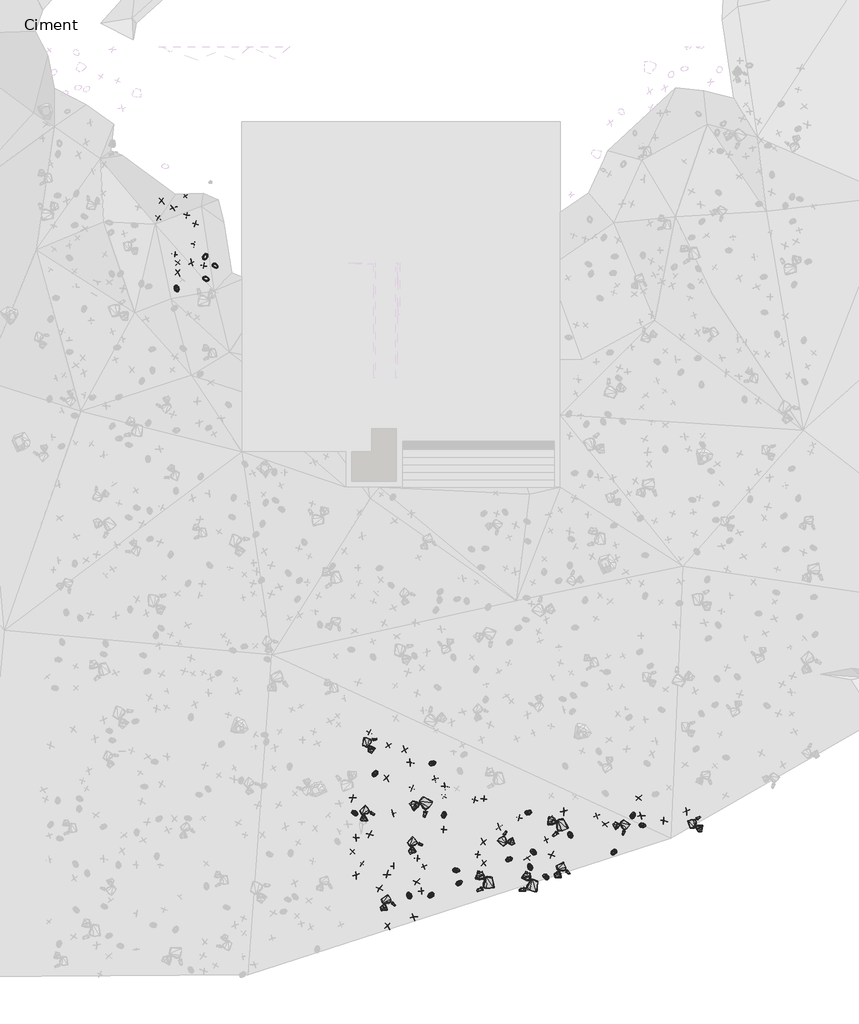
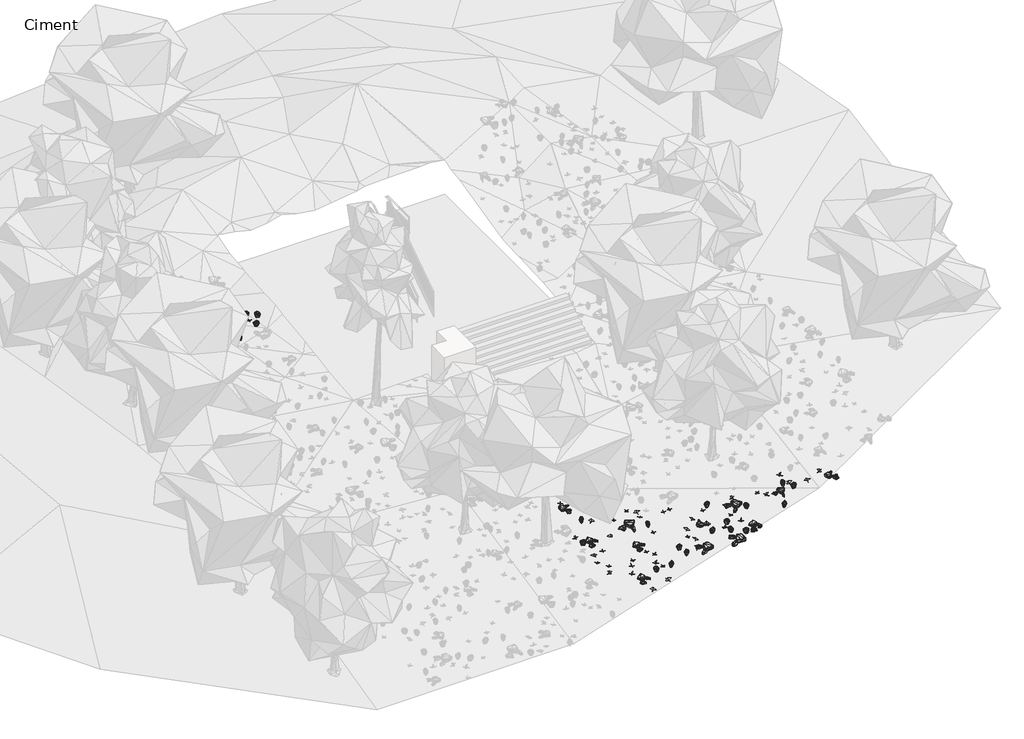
# One storey, part 11 of 30: 88 geographic elements.
"""IFC4 building model written with IfcOpenShell, lengths in millimetres."""

from ifc_helpers import new_model, si_unit, origin, place, context, project, spatial, transform, mapped, element, save
from components import enscape_assetdefinition_bush_025_fern_enscape_5718bf32, enscape_assetdefinition_bush_054_plant_09_version_2_enscape_7b546a12, enscape_assetdefinition_bush_062_plant_09_version_3_enscape_ccf8c8eb, enscape_assetdefinition_stone_013_group_enscape_516da325, enscape_assetdefinition_stone_013_group_enscape_db9b3e91

model = new_model("IFC4")

# Units and contexts
model_context = context("Model", 3, world=origin())
ifc_project = project(units=[si_unit("LENGTHUNIT", "METRE", prefix="MILLI")], contexts=[model_context])

# Site, building, storey
site = spatial("IfcSite", under=ifc_project)
building = spatial("IfcBuilding", under=site)
storey = spatial("IfcBuildingStorey", under=building, Name="Ciment", Elevation=-1500.0)

# Geographic elements
placement = place(None, origin())
enscape_assetdefinition_bush_025_fern_enscape_shape = enscape_assetdefinition_bush_025_fern_enscape_5718bf32(model_context)
element("IfcGeographicElement", 1, ObjectType="Enscape AssetDefinition - Bush 025 Fern : Enscape AssetDefinition - Bush 025 Fern", at=placement, inside=storey, context=model_context, shape_type="MappedRepresentation", body=[
    mapped(enscape_assetdefinition_bush_025_fern_enscape_shape, transform((7118.5898781, -26740.2896881, -2945.7292557), x_axis=(-0.45505584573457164, 0.8904629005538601, 0.0), y_axis=(-0.8904629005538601, -0.45505584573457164, 0.0), z_axis=(0.0, 0.0, 1.0))),
])
element("IfcGeographicElement", 2, ObjectType="Enscape AssetDefinition - Bush 025 Fern : Enscape AssetDefinition - Bush 025 Fern", at=placement, inside=storey, context=model_context, shape_type="MappedRepresentation", body=[
    mapped(enscape_assetdefinition_bush_025_fern_enscape_shape, transform((1025.7167816, -23061.4070892, -2487.1397018), x_axis=(0.4940341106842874, 0.8694425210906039, 0.0), y_axis=(-0.8694425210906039, 0.4940341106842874, 0.0), z_axis=(0.0, 0.0, 1.0))),
])
element("IfcGeographicElement", 3, ObjectType="Enscape AssetDefinition - Bush 025 Fern : Enscape AssetDefinition - Bush 025 Fern", at=placement, inside=storey, context=model_context, shape_type="MappedRepresentation", body=[
    mapped(enscape_assetdefinition_bush_025_fern_enscape_shape, transform((3204.8778534, -27858.0818176, -2933.9733124), x_axis=(-0.6869620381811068, -0.7266933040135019, 0.0), y_axis=(0.7266933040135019, -0.6869620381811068, 0.0), z_axis=(0.0, 0.0, 1.0))),
])
element("IfcGeographicElement", 4, ObjectType="Enscape AssetDefinition - Bush 025 Fern : Enscape AssetDefinition - Bush 025 Fern", at=placement, inside=storey, context=model_context, shape_type="MappedRepresentation", body=[
    mapped(enscape_assetdefinition_bush_025_fern_enscape_shape, transform((2365.2915955, -27864.9272919, -2912.5247002), x_axis=(-0.578847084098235, 0.8154361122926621, 0.0), y_axis=(-0.8154361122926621, -0.578847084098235, 0.0), z_axis=(0.0, 0.0, 1.0))),
])
element("IfcGeographicElement", 5, ObjectType="Enscape AssetDefinition - Bush 025 Fern : Enscape AssetDefinition - Bush 025 Fern", at=placement, inside=storey, context=model_context, shape_type="MappedRepresentation", body=[
    mapped(enscape_assetdefinition_bush_025_fern_enscape_shape, transform((-5666.4047241, -2708.9042664, -517.8720951), x_axis=(0.3528744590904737, 0.9356706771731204, 0.0), y_axis=(-0.9356706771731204, 0.3528744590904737, 0.0), z_axis=(0.0, 0.0, 1.0))),
])
element("IfcGeographicElement", 6, ObjectType="Enscape AssetDefinition - Bush 025 Fern : Enscape AssetDefinition - Bush 025 Fern", at=placement, inside=storey, context=model_context, shape_type="MappedRepresentation", body=[
    mapped(enscape_assetdefinition_bush_025_fern_enscape_shape, transform((4333.7116241, -27377.7866364, -2924.5359898), x_axis=(0.7430670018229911, 0.6692170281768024, 0.0), y_axis=(-0.6692170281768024, 0.7430670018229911, 0.0), z_axis=(0.0, 0.0, 1.0))),
])
element("IfcGeographicElement", 7, ObjectType="Enscape AssetDefinition - Bush 025 Fern : Enscape AssetDefinition - Bush 025 Fern", at=placement, inside=storey, context=model_context, shape_type="MappedRepresentation", body=[
    mapped(enscape_assetdefinition_bush_025_fern_enscape_shape, transform((7736.0091209, -27129.6367645, -2993.544817), x_axis=(-0.8631861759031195, 0.504885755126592, 0.0), y_axis=(-0.504885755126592, -0.8631861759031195, 0.0), z_axis=(0.0, 0.0, 1.0))),
])
element("IfcGeographicElement", 8, ObjectType="Enscape AssetDefinition - Bush 025 Fern : Enscape AssetDefinition - Bush 025 Fern", at=placement, inside=storey, context=model_context, shape_type="MappedRepresentation", body=[
    mapped(enscape_assetdefinition_bush_025_fern_enscape_shape, transform((8704.5841217, -25474.6227264, -2884.4637871), x_axis=(-0.5102727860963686, 0.860012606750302, 0.0), y_axis=(-0.860012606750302, -0.5102727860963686, 0.0), z_axis=(0.0, 0.0, 1.0))),
])
element("IfcGeographicElement", 9, ObjectType="Enscape AssetDefinition - Bush 025 Fern : Enscape AssetDefinition - Bush 025 Fern", at=placement, inside=storey, context=model_context, shape_type="MappedRepresentation", body=[
    mapped(enscape_assetdefinition_bush_025_fern_enscape_shape, transform((11552.0458221, -25111.7534637, -2929.6104908), x_axis=(0.9999991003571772, -0.0013413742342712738, 0.0), y_axis=(0.0013413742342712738, 0.9999991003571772, 0.0), z_axis=(0.0, 0.0, 1.0))),
])
element("IfcGeographicElement", 10, ObjectType="Enscape AssetDefinition - Bush 025 Fern : Enscape AssetDefinition - Bush 025 Fern", at=placement, inside=storey, context=model_context, shape_type="MappedRepresentation", body=[
    mapped(enscape_assetdefinition_bush_025_fern_enscape_shape, transform((7059.1759682, -24603.2371521, -2770.5411911), x_axis=(0.9294596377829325, 0.3689238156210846, 0.0), y_axis=(-0.3689238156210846, 0.9294596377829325, 0.0), z_axis=(0.0, 0.0, 1.0))),
])
element("IfcGeographicElement", 11, ObjectType="Enscape AssetDefinition - Bush 025 Fern : Enscape AssetDefinition - Bush 025 Fern", at=placement, inside=storey, context=model_context, shape_type="MappedRepresentation", body=[
    mapped(enscape_assetdefinition_bush_025_fern_enscape_shape, transform((-6794.6281433, -3959.6617222, -703.9065361), x_axis=(-0.42776056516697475, 0.9038920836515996, 0.0), y_axis=(-0.9038920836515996, -0.42776056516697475, 0.0), z_axis=(0.0, 0.0, 1.0))),
])
element("IfcGeographicElement", 12, ObjectType="Enscape AssetDefinition - Bush 025 Fern : Enscape AssetDefinition - Bush 025 Fern", at=placement, inside=storey, context=model_context, shape_type="MappedRepresentation", body=[
    mapped(enscape_assetdefinition_bush_025_fern_enscape_shape, transform((3733.3393097, -24691.7171478, -2690.5632019), x_axis=(0.12916481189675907, 0.9916231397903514, 0.0), y_axis=(-0.9916231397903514, 0.12916481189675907, 0.0), z_axis=(0.0, 0.0, 1.0))),
])
element("IfcGeographicElement", 13, ObjectType="Enscape AssetDefinition - Bush 025 Fern : Enscape AssetDefinition - Bush 025 Fern", at=placement, inside=storey, context=model_context, shape_type="MappedRepresentation", body=[
    mapped(enscape_assetdefinition_bush_025_fern_enscape_shape, transform((-5277.1778107, -3076.6162872, -450.5460262), x_axis=(0.877741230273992, -0.4791349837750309, 0.0), y_axis=(0.4791349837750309, 0.877741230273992, 0.0), z_axis=(0.0, 0.0, 1.0))),
])
element("IfcGeographicElement", 14, ObjectType="Enscape AssetDefinition - Bush 025 Fern : Enscape AssetDefinition - Bush 025 Fern", at=placement, inside=storey, context=model_context, shape_type="MappedRepresentation", body=[
    mapped(enscape_assetdefinition_bush_025_fern_enscape_shape, transform((3260.2901459, -22660.5396271, -2513.1363869), x_axis=(-0.9152464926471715, -0.4028943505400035, 0.0), y_axis=(0.4028943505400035, -0.9152464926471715, 0.0), z_axis=(0.0, 0.0, 1.0))),
])
element("IfcGeographicElement", 15, ObjectType="Enscape AssetDefinition - Bush 025 Fern : Enscape AssetDefinition - Bush 025 Fern", at=placement, inside=storey, context=model_context, shape_type="MappedRepresentation", body=[
    mapped(enscape_assetdefinition_bush_025_fern_enscape_shape, transform((6280.7941437, -26440.3514862, -2899.40238), x_axis=(-0.8868810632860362, -0.46199781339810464, 0.0), y_axis=(0.46199781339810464, -0.8868810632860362, 0.0), z_axis=(0.0, 0.0, 1.0))),
])
element("IfcGeographicElement", 16, ObjectType="Enscape AssetDefinition - Bush 025 Fern : Enscape AssetDefinition - Bush 025 Fern", at=placement, inside=storey, context=model_context, shape_type="MappedRepresentation", body=[
    mapped(enscape_assetdefinition_bush_025_fern_enscape_shape, transform((11169.8513031, -24714.1284943, -2884.5906258), x_axis=(0.29167000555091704, 0.9565190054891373, 0.0), y_axis=(-0.9565190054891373, 0.29167000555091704, 0.0), z_axis=(0.0, 0.0, 1.0))),
])
element("IfcGeographicElement", 17, ObjectType="Enscape AssetDefinition - Bush 025 Fern : Enscape AssetDefinition - Bush 025 Fern", at=placement, inside=storey, context=model_context, shape_type="MappedRepresentation", body=[
    mapped(enscape_assetdefinition_bush_025_fern_enscape_shape, transform((206.1748505, -24620.7180023, -2592.3509598), x_axis=(-0.9025733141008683, 0.43053619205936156, 0.0), y_axis=(-0.43053619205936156, -0.9025733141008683, 0.0), z_axis=(0.0, 0.0, 1.0))),
])
element("IfcGeographicElement", 18, ObjectType="Enscape AssetDefinition - Bush 025 Fern : Enscape AssetDefinition - Bush 025 Fern", at=placement, inside=storey, context=model_context, shape_type="MappedRepresentation", body=[
    mapped(enscape_assetdefinition_bush_025_fern_enscape_shape, transform((7243.2308197, -26151.9184113, -2901.1921883), x_axis=(-0.8171072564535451, 0.5764856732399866, 0.0), y_axis=(-0.5764856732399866, -0.8171072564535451, 0.0), z_axis=(0.0, 0.0, 1.0))),
])
element("IfcGeographicElement", 19, ObjectType="Enscape AssetDefinition - Bush 025 Fern : Enscape AssetDefinition - Bush 025 Fern", at=placement, inside=storey, context=model_context, shape_type="MappedRepresentation", body=[
    mapped(enscape_assetdefinition_bush_025_fern_enscape_shape, transform((10408.4606171, -26169.4202423, -2985.5716228), x_axis=(-0.636606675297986, -0.7711886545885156, 0.0), y_axis=(0.7711886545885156, -0.636606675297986, 0.0), z_axis=(0.0, 0.0, 1.0))),
])
element("IfcGeographicElement", 20, ObjectType="Enscape AssetDefinition - Bush 025 Fern : Enscape AssetDefinition - Bush 025 Fern", at=placement, inside=storey, context=model_context, shape_type="MappedRepresentation", body=[
    mapped(enscape_assetdefinition_bush_025_fern_enscape_shape, transform((-5656.7459106, -3579.4467926, -533.7667465), x_axis=(-0.9736985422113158, 0.22784018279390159, 0.0), y_axis=(-0.22784018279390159, -0.9736985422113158, 0.0), z_axis=(0.0, 0.0, 1.0))),
])
element("IfcGeographicElement", 21, ObjectType="Enscape AssetDefinition - Bush 025 Fern : Enscape AssetDefinition - Bush 025 Fern", at=placement, inside=storey, context=model_context, shape_type="MappedRepresentation", body=[
    mapped(enscape_assetdefinition_bush_025_fern_enscape_shape, transform((4217.7371979, -26884.8991394, -2881.4501762), x_axis=(0.9989510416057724, 0.04579100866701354, 0.0), y_axis=(-0.04579100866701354, 0.9989510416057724, 0.0), z_axis=(0.0, 0.0, 1.0))),
])
enscape_assetdefinition_bush_054_plant_09_version_2_enscape_shape = enscape_assetdefinition_bush_054_plant_09_version_2_enscape_7b546a12(model_context)
element("IfcGeographicElement", 22, ObjectType="Enscape AssetDefinition - Bush 054 Plant 09, Version 2 : Enscape AssetDefinition - Bush 054 Plant 09, Version 2", at=placement, inside=storey, context=model_context, shape_type="MappedRepresentation", body=[
    mapped(enscape_assetdefinition_bush_054_plant_09_version_2_enscape_shape, transform((7747.625351, -25687.6564026, -2876.6918182), x_axis=(0.904695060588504, 0.42605967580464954, 0.0), y_axis=(-0.42605967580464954, 0.904695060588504, 0.0), z_axis=(0.0, 0.0, 1.0))),
])
element("IfcGeographicElement", 23, ObjectType="Enscape AssetDefinition - Bush 054 Plant 09, Version 2 : Enscape AssetDefinition - Bush 054 Plant 09, Version 2", at=placement, inside=storey, context=model_context, shape_type="MappedRepresentation", body=[
    mapped(enscape_assetdefinition_bush_054_plant_09_version_2_enscape_shape, transform((5293.2109833, -24062.2577667, -2680.303812), x_axis=(-0.01391196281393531, -0.9999032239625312, 0.0), y_axis=(0.9999032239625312, -0.01391196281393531, 0.0), z_axis=(0.0, 0.0, 1.0))),
])
element("IfcGeographicElement", 24, ObjectType="Enscape AssetDefinition - Bush 054 Plant 09, Version 2 : Enscape AssetDefinition - Bush 054 Plant 09, Version 2", at=placement, inside=storey, context=model_context, shape_type="MappedRepresentation", body=[
    mapped(enscape_assetdefinition_bush_054_plant_09_version_2_enscape_shape, transform((2672.0943451, -26412.9199982, -2802.5929928), x_axis=(-0.03415429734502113, -0.9994165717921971, 0.0), y_axis=(0.9994165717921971, -0.03415429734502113, 0.0), z_axis=(0.0, 0.0, 1.0))),
])
element("IfcGeographicElement", 25, ObjectType="Enscape AssetDefinition - Bush 054 Plant 09, Version 2 : Enscape AssetDefinition - Bush 054 Plant 09, Version 2", at=placement, inside=storey, context=model_context, shape_type="MappedRepresentation", body=[
    mapped(enscape_assetdefinition_bush_054_plant_09_version_2_enscape_shape, transform((-6055.8490753, -1415.6227112, -543.0310965), x_axis=(-0.9758720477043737, 0.21834318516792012, 0.0), y_axis=(-0.21834318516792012, -0.9758720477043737, 0.0), z_axis=(0.0, 0.0, 1.0))),
])
element("IfcGeographicElement", 26, ObjectType="Enscape AssetDefinition - Bush 054 Plant 09, Version 2 : Enscape AssetDefinition - Bush 054 Plant 09, Version 2", at=placement, inside=storey, context=model_context, shape_type="MappedRepresentation", body=[
    mapped(enscape_assetdefinition_bush_054_plant_09_version_2_enscape_shape, transform((9750.8182526, -24736.0210419, -2851.8748283), x_axis=(-0.361039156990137, 0.9325506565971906, 0.0), y_axis=(-0.9325506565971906, -0.361039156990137, 0.0), z_axis=(0.0, 0.0, 1.0))),
])
element("IfcGeographicElement", 27, ObjectType="Enscape AssetDefinition - Bush 054 Plant 09, Version 2 : Enscape AssetDefinition - Bush 054 Plant 09, Version 2", at=placement, inside=storey, context=model_context, shape_type="MappedRepresentation", body=[
    mapped(enscape_assetdefinition_bush_054_plant_09_version_2_enscape_shape, transform((6693.2888031, -24806.0894012, -2777.4333954), x_axis=(-0.9899116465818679, 0.14168603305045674, 0.0), y_axis=(-0.14168603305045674, -0.9899116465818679, 0.0), z_axis=(0.0, 0.0, 1.0))),
])
element("IfcGeographicElement", 28, ObjectType="Enscape AssetDefinition - Bush 054 Plant 09, Version 2 : Enscape AssetDefinition - Bush 054 Plant 09, Version 2", at=placement, inside=storey, context=model_context, shape_type="MappedRepresentation", body=[
    mapped(enscape_assetdefinition_bush_054_plant_09_version_2_enscape_shape, transform((-6870.68367, -2617.9141998, -675.5586863), x_axis=(-0.10277593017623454, -0.9947045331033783, 0.0), y_axis=(0.9947045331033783, -0.10277593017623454, 0.0), z_axis=(0.0, 0.0, 1.0))),
])
element("IfcGeographicElement", 29, ObjectType="Enscape AssetDefinition - Bush 054 Plant 09, Version 2 : Enscape AssetDefinition - Bush 054 Plant 09, Version 2", at=placement, inside=storey, context=model_context, shape_type="MappedRepresentation", body=[
    mapped(enscape_assetdefinition_bush_054_plant_09_version_2_enscape_shape, transform((-7515.3369904, -1188.1027222, -662.173748), x_axis=(0.5449504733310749, 0.8384682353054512, 0.0), y_axis=(-0.8384682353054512, 0.5449504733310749, 0.0), z_axis=(0.0, 0.0, 1.0))),
])
element("IfcGeographicElement", 30, ObjectType="Enscape AssetDefinition - Bush 054 Plant 09, Version 2 : Enscape AssetDefinition - Bush 054 Plant 09, Version 2", at=placement, inside=storey, context=model_context, shape_type="MappedRepresentation", body=[
    mapped(enscape_assetdefinition_bush_054_plant_09_version_2_enscape_shape, transform((1744.7853088, -26707.6511383, -2802.2356033), x_axis=(0.11132722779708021, -0.9937838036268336, 0.0), y_axis=(0.9937838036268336, 0.11132722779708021, 0.0), z_axis=(0.0, 0.0, 1.0))),
])
element("IfcGeographicElement", 31, ObjectType="Enscape AssetDefinition - Bush 054 Plant 09, Version 2 : Enscape AssetDefinition - Bush 054 Plant 09, Version 2", at=placement, inside=storey, context=model_context, shape_type="MappedRepresentation", body=[
    mapped(enscape_assetdefinition_bush_054_plant_09_version_2_enscape_shape, transform((-5739.2501831, -3064.0678406, -534.3409777), x_axis=(-0.11360883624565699, -0.993525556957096, 0.0), y_axis=(0.993525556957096, -0.11360883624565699, 0.0), z_axis=(0.0, 0.0, 1.0))),
])
element("IfcGeographicElement", 32, ObjectType="Enscape AssetDefinition - Bush 054 Plant 09, Version 2 : Enscape AssetDefinition - Bush 054 Plant 09, Version 2", at=placement, inside=storey, context=model_context, shape_type="MappedRepresentation", body=[
    mapped(enscape_assetdefinition_bush_054_plant_09_version_2_enscape_shape, transform((2464.471817, -23652.1549225, -2572.8449821), x_axis=(0.9435413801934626, -0.3312546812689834, 0.0), y_axis=(0.3312546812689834, 0.9435413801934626, 0.0), z_axis=(0.0, 0.0, 1.0))),
])
element("IfcGeographicElement", 33, ObjectType="Enscape AssetDefinition - Bush 054 Plant 09, Version 2 : Enscape AssetDefinition - Bush 054 Plant 09, Version 2", at=placement, inside=storey, context=model_context, shape_type="MappedRepresentation", body=[
    mapped(enscape_assetdefinition_bush_054_plant_09_version_2_enscape_shape, transform((-6105.7910919, -2227.1270752, -565.5124187), x_axis=(0.9937967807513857, -0.11121132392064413, 0.0), y_axis=(0.11121132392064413, 0.9937967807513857, 0.0), z_axis=(0.0, 0.0, 1.0))),
])
element("IfcGeographicElement", 34, ObjectType="Enscape AssetDefinition - Bush 054 Plant 09, Version 2 : Enscape AssetDefinition - Bush 054 Plant 09, Version 2", at=placement, inside=storey, context=model_context, shape_type="MappedRepresentation", body=[
    mapped(enscape_assetdefinition_bush_054_plant_09_version_2_enscape_shape, transform((5049.8638153, -26259.847641, -2852.4756432), x_axis=(0.996334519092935, -0.08554253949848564, 0.0), y_axis=(0.08554253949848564, 0.996334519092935, 0.0), z_axis=(0.0, 0.0, 1.0))),
])
element("IfcGeographicElement", 35, ObjectType="Enscape AssetDefinition - Bush 054 Plant 09, Version 2 : Enscape AssetDefinition - Bush 054 Plant 09, Version 2", at=placement, inside=storey, context=model_context, shape_type="MappedRepresentation", body=[
    mapped(enscape_assetdefinition_bush_054_plant_09_version_2_enscape_shape, transform((-6452.193737, -339.3707275, -338.7292624), x_axis=(0.7423704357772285, 0.6699896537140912, 0.0), y_axis=(-0.6699896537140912, 0.7423704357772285, 0.0), z_axis=(0.0, 0.0, 1.0))),
])
element("IfcGeographicElement", 36, ObjectType="Enscape AssetDefinition - Bush 054 Plant 09, Version 2 : Enscape AssetDefinition - Bush 054 Plant 09, Version 2", at=placement, inside=storey, context=model_context, shape_type="MappedRepresentation", body=[
    mapped(enscape_assetdefinition_bush_054_plant_09_version_2_enscape_shape, transform((-6393.9495087, -1076.0917664, -580.3040266), x_axis=(0.1338489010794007, 0.9910017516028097, 0.0), y_axis=(-0.9910017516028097, 0.1338489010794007, 0.0), z_axis=(0.0, 0.0, 1.0))),
])
element("IfcGeographicElement", 37, ObjectType="Enscape AssetDefinition - Bush 054 Plant 09, Version 2 : Enscape AssetDefinition - Bush 054 Plant 09, Version 2", at=placement, inside=storey, context=model_context, shape_type="MappedRepresentation", body=[
    mapped(enscape_assetdefinition_bush_054_plant_09_version_2_enscape_shape, transform((3375.5474091, -23275.7205963, -2566.1389828), x_axis=(-0.9600340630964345, -0.27988318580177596, 0.0), y_axis=(0.27988318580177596, -0.9600340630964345, 0.0), z_axis=(0.0, 0.0, 1.0))),
])
element("IfcGeographicElement", 38, ObjectType="Enscape AssetDefinition - Bush 054 Plant 09, Version 2 : Enscape AssetDefinition - Bush 054 Plant 09, Version 2", at=placement, inside=storey, context=model_context, shape_type="MappedRepresentation", body=[
    mapped(enscape_assetdefinition_bush_054_plant_09_version_2_enscape_shape, transform((2939.1839504, -26726.6979218, -2835.0868225), x_axis=(-0.42789657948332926, 0.9038277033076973, 0.0), y_axis=(-0.9038277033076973, -0.42789657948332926, 0.0), z_axis=(0.0, 0.0, 1.0))),
])
element("IfcGeographicElement", 39, ObjectType="Enscape AssetDefinition - Bush 054 Plant 09, Version 2 : Enscape AssetDefinition - Bush 054 Plant 09, Version 2", at=placement, inside=storey, context=model_context, shape_type="MappedRepresentation", body=[
    mapped(enscape_assetdefinition_bush_054_plant_09_version_2_enscape_shape, transform((1533.5292816, -21966.1922455, -2411.4649296), x_axis=(0.6134459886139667, -0.7897366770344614, 0.0), y_axis=(0.7897366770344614, 0.6134459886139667, 0.0), z_axis=(0.0, 0.0, 1.0))),
])
element("IfcGeographicElement", 40, ObjectType="Enscape AssetDefinition - Bush 054 Plant 09, Version 2 : Enscape AssetDefinition - Bush 054 Plant 09, Version 2", at=placement, inside=storey, context=model_context, shape_type="MappedRepresentation", body=[
    mapped(enscape_assetdefinition_bush_054_plant_09_version_2_enscape_shape, transform((129.8465729, -26150.8235931, -2714.6682739), x_axis=(0.646340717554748, 0.7630489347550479, 0.0), y_axis=(-0.7630489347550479, 0.646340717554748, 0.0), z_axis=(0.0, 0.0, 1.0))),
])
element("IfcGeographicElement", 41, ObjectType="Enscape AssetDefinition - Bush 054 Plant 09, Version 2 : Enscape AssetDefinition - Bush 054 Plant 09, Version 2", at=placement, inside=storey, context=model_context, shape_type="MappedRepresentation", body=[
    mapped(enscape_assetdefinition_bush_054_plant_09_version_2_enscape_shape, transform((786.4589095, -21442.2969818, -2349.3196964), x_axis=(-0.4104278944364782, -0.9118930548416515, 0.0), y_axis=(0.9118930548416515, -0.4104278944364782, 0.0), z_axis=(0.0, 0.0, 1.0))),
])
element("IfcGeographicElement", 42, ObjectType="Enscape AssetDefinition - Bush 054 Plant 09, Version 2 : Enscape AssetDefinition - Bush 054 Plant 09, Version 2", at=placement, inside=storey, context=model_context, shape_type="MappedRepresentation", body=[
    mapped(enscape_assetdefinition_bush_054_plant_09_version_2_enscape_shape, transform((4946.0811615, -24098.279953, -2674.1323471), x_axis=(-0.9796194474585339, 0.20086248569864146, 0.0), y_axis=(-0.20086248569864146, -0.9796194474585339, 0.0), z_axis=(0.0, 0.0, 1.0))),
])
element("IfcGeographicElement", 43, ObjectType="Enscape AssetDefinition - Bush 054 Plant 09, Version 2 : Enscape AssetDefinition - Bush 054 Plant 09, Version 2", at=placement, inside=storey, context=model_context, shape_type="MappedRepresentation", body=[
    mapped(enscape_assetdefinition_bush_054_plant_09_version_2_enscape_shape, transform((3729.5360565, -23967.8153992, -2631.6480637), x_axis=(0.8589299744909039, -0.5120930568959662, 0.0), y_axis=(0.5120930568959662, 0.8589299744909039, 0.0), z_axis=(0.0, 0.0, 1.0))),
])
element("IfcGeographicElement", 44, ObjectType="Enscape AssetDefinition - Bush 054 Plant 09, Version 2 : Enscape AssetDefinition - Bush 054 Plant 09, Version 2", at=placement, inside=storey, context=model_context, shape_type="MappedRepresentation", body=[
    mapped(enscape_assetdefinition_bush_054_plant_09_version_2_enscape_shape, transform((2838.9377594, -27701.1508942, -2911.6318226), x_axis=(0.9858104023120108, 0.167862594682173, 0.0), y_axis=(-0.167862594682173, 0.9858104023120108, 0.0), z_axis=(0.0, 0.0, 1.0))),
])
element("IfcGeographicElement", 45, ObjectType="Enscape AssetDefinition - Bush 054 Plant 09, Version 2 : Enscape AssetDefinition - Bush 054 Plant 09, Version 2", at=placement, inside=storey, context=model_context, shape_type="MappedRepresentation", body=[
    mapped(enscape_assetdefinition_bush_054_plant_09_version_2_enscape_shape, transform((-6761.6286278, -2959.8369598, -670.1699495), x_axis=(0.8242827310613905, -0.5661783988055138, 0.0), y_axis=(0.5661783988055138, 0.8242827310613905, 0.0), z_axis=(0.0, 0.0, 1.0))),
])
element("IfcGeographicElement", 46, ObjectType="Enscape AssetDefinition - Bush 054 Plant 09, Version 2 : Enscape AssetDefinition - Bush 054 Plant 09, Version 2", at=placement, inside=storey, context=model_context, shape_type="MappedRepresentation", body=[
    mapped(enscape_assetdefinition_bush_054_plant_09_version_2_enscape_shape, transform((3721.0178375, -25266.2067413, -2736.9160652), x_axis=(-0.9975177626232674, 0.07041529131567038, 0.0), y_axis=(-0.07041529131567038, -0.9975177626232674, 0.0), z_axis=(0.0, 0.0, 1.0))),
])
element("IfcGeographicElement", 47, ObjectType="Enscape AssetDefinition - Bush 054 Plant 09, Version 2 : Enscape AssetDefinition - Bush 054 Plant 09, Version 2", at=placement, inside=storey, context=model_context, shape_type="MappedRepresentation", body=[
    mapped(enscape_assetdefinition_bush_054_plant_09_version_2_enscape_shape, transform((488.7733459, -26614.2158508, -2761.7249489), x_axis=(0.8209905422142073, -0.5709417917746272, 0.0), y_axis=(0.5709417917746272, 0.8209905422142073, 0.0), z_axis=(0.0, 0.0, 1.0))),
])
enscape_assetdefinition_bush_062_plant_09_version_3_enscape_shape = enscape_assetdefinition_bush_062_plant_09_version_3_enscape_ccf8c8eb(model_context)
element("IfcGeographicElement", 48, ObjectType="Enscape AssetDefinition - Bush 062 Plant 09, Version 3 : Enscape AssetDefinition - Bush 062 Plant 09, Version 3", at=placement, inside=storey, context=model_context, shape_type="MappedRepresentation", body=[
    mapped(enscape_assetdefinition_bush_062_plant_09_version_3_enscape_shape, transform((7005.1445961, -26394.4759369, -2914.6595001), x_axis=(-0.7769112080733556, 0.629610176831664, 0.0), y_axis=(-0.629610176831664, -0.7769112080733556, 0.0), z_axis=(0.0, 0.0, 1.0))),
])
element("IfcGeographicElement", 49, ObjectType="Enscape AssetDefinition - Bush 062 Plant 09, Version 3 : Enscape AssetDefinition - Bush 062 Plant 09, Version 3", at=placement, inside=storey, context=model_context, shape_type="MappedRepresentation", body=[
    mapped(enscape_assetdefinition_bush_062_plant_09_version_3_enscape_shape, transform((2173.8529205, -22124.7615814, -2441.1308765), x_axis=(0.7716129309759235, 0.6360923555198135, 0.0), y_axis=(-0.6360923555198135, 0.7716129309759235, 0.0), z_axis=(0.0, 0.0, 1.0))),
])
element("IfcGeographicElement", 50, ObjectType="Enscape AssetDefinition - Bush 062 Plant 09, Version 3 : Enscape AssetDefinition - Bush 062 Plant 09, Version 3", at=placement, inside=storey, context=model_context, shape_type="MappedRepresentation", body=[
    mapped(enscape_assetdefinition_bush_062_plant_09_version_3_enscape_shape, transform((3773.6110687, -23569.3531036, -2600.4290581), x_axis=(0.2135013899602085, -0.9769427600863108, 0.0), y_axis=(0.9769427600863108, 0.2135013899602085, 0.0), z_axis=(0.0, 0.0, 1.0))),
])
element("IfcGeographicElement", 51, ObjectType="Enscape AssetDefinition - Bush 062 Plant 09, Version 3 : Enscape AssetDefinition - Bush 062 Plant 09, Version 3", at=placement, inside=storey, context=model_context, shape_type="MappedRepresentation", body=[
    mapped(enscape_assetdefinition_bush_062_plant_09_version_3_enscape_shape, transform((130.9242249, -24044.7635651, -2543.5838699), x_axis=(-0.9970671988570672, -0.07653104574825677, 0.0), y_axis=(0.07653104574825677, -0.9970671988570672, 0.0), z_axis=(0.0, 0.0, 1.0))),
])
element("IfcGeographicElement", 52, ObjectType="Enscape AssetDefinition - Bush 062 Plant 09, Version 3 : Enscape AssetDefinition - Bush 062 Plant 09, Version 3", at=placement, inside=storey, context=model_context, shape_type="MappedRepresentation", body=[
    mapped(enscape_assetdefinition_bush_062_plant_09_version_3_enscape_shape, transform((5281.5113068, -26582.3688507, -2884.750843), x_axis=(0.6211842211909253, 0.7836645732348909, 0.0), y_axis=(-0.7836645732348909, 0.6211842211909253, 0.0), z_axis=(0.0, 0.0, 1.0))),
])
element("IfcGeographicElement", 53, ObjectType="Enscape AssetDefinition - Bush 062 Plant 09, Version 3 : Enscape AssetDefinition - Bush 062 Plant 09, Version 3", at=placement, inside=storey, context=model_context, shape_type="MappedRepresentation", body=[
    mapped(enscape_assetdefinition_bush_062_plant_09_version_3_enscape_shape, transform((2656.3875675, -27329.5497894, -2876.6555786), x_axis=(0.9352961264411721, -0.3538660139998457, 0.0), y_axis=(0.3538660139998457, 0.9352961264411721, 0.0), z_axis=(0.0, 0.0, 1.0))),
])
element("IfcGeographicElement", 54, ObjectType="Enscape AssetDefinition - Bush 062 Plant 09, Version 3 : Enscape AssetDefinition - Bush 062 Plant 09, Version 3", at=placement, inside=storey, context=model_context, shape_type="MappedRepresentation", body=[
    mapped(enscape_assetdefinition_bush_062_plant_09_version_3_enscape_shape, transform((1514.0382051, -29076.5857697, -2988.6584282), x_axis=(-0.6121259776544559, -0.7907602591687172, 0.0), y_axis=(0.7907602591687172, -0.6121259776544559, 0.0), z_axis=(0.0, 0.0, 1.0))),
])
element("IfcGeographicElement", 55, ObjectType="Enscape AssetDefinition - Bush 062 Plant 09, Version 3 : Enscape AssetDefinition - Bush 062 Plant 09, Version 3", at=placement, inside=storey, context=model_context, shape_type="MappedRepresentation", body=[
    mapped(enscape_assetdefinition_bush_062_plant_09_version_3_enscape_shape, transform((1484.0869904, -27034.0442657, -2821.921587), x_axis=(0.9966251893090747, 0.08208673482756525, 0.0), y_axis=(-0.08208673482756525, 0.9966251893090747, 0.0), z_axis=(0.0, 0.0, 1.0))),
])
element("IfcGeographicElement", 56, ObjectType="Enscape AssetDefinition - Bush 062 Plant 09, Version 3 : Enscape AssetDefinition - Bush 062 Plant 09, Version 3", at=placement, inside=storey, context=model_context, shape_type="MappedRepresentation", body=[
    mapped(enscape_assetdefinition_bush_062_plant_09_version_3_enscape_shape, transform((-6212.0265961, -2941.2915707, -593.3953524), x_axis=(0.8363367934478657, 0.5482159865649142, 0.0), y_axis=(-0.5482159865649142, 0.8363367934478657, 0.0), z_axis=(0.0, 0.0, 1.0))),
])
element("IfcGeographicElement", 57, ObjectType="Enscape AssetDefinition - Bush 062 Plant 09, Version 3 : Enscape AssetDefinition - Bush 062 Plant 09, Version 3", at=placement, inside=storey, context=model_context, shape_type="MappedRepresentation", body=[
    mapped(enscape_assetdefinition_bush_062_plant_09_version_3_enscape_shape, transform((12394.4797516, -24921.4038849, -2928.9624691), x_axis=(0.07712906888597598, -0.9970211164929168, 0.0), y_axis=(0.9970211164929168, 0.07712906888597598, 0.0), z_axis=(0.0, 0.0, 1.0))),
])
element("IfcGeographicElement", 58, ObjectType="Enscape AssetDefinition - Bush 062 Plant 09, Version 3 : Enscape AssetDefinition - Bush 062 Plant 09, Version 3", at=placement, inside=storey, context=model_context, shape_type="MappedRepresentation", body=[
    mapped(enscape_assetdefinition_bush_062_plant_09_version_3_enscape_shape, transform((804.2583466, -25454.240799, -2675.7483482), x_axis=(0.9926396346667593, -0.12110555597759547, 0.0), y_axis=(0.12110555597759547, 0.9926396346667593, 0.0), z_axis=(0.0, 0.0, 1.0))),
])
element("IfcGeographicElement", 59, ObjectType="Enscape AssetDefinition - Bush 062 Plant 09, Version 3 : Enscape AssetDefinition - Bush 062 Plant 09, Version 3", at=placement, inside=storey, context=model_context, shape_type="MappedRepresentation", body=[
    mapped(enscape_assetdefinition_bush_062_plant_09_version_3_enscape_shape, transform((5273.0388641, -25753.660202, -2817.1975613), x_axis=(0.6497249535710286, 0.76016937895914, 0.0), y_axis=(-0.76016937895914, 0.6497249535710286, 0.0), z_axis=(0.0, 0.0, 1.0))),
])
element("IfcGeographicElement", 60, ObjectType="Enscape AssetDefinition - Bush 062 Plant 09, Version 3 : Enscape AssetDefinition - Bush 062 Plant 09, Version 3", at=placement, inside=storey, context=model_context, shape_type="MappedRepresentation", body=[
    mapped(enscape_assetdefinition_bush_062_plant_09_version_3_enscape_shape, transform((8454.4658661, -24568.2926178, -2804.2709827), x_axis=(-0.9526170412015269, -0.30417227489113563, 0.0), y_axis=(0.30417227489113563, -0.9526170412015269, 0.0), z_axis=(0.0, 0.0, 1.0))),
])
element("IfcGeographicElement", 61, ObjectType="Enscape AssetDefinition - Bush 062 Plant 09, Version 3 : Enscape AssetDefinition - Bush 062 Plant 09, Version 3", at=placement, inside=storey, context=model_context, shape_type="MappedRepresentation", body=[
    mapped(enscape_assetdefinition_bush_062_plant_09_version_3_enscape_shape, transform((11499.3305206, -24725.2635956, -2892.4064636), x_axis=(0.37770330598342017, -0.925926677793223, 0.0), y_axis=(0.925926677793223, 0.37770330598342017, 0.0), z_axis=(0.0, 0.0, 1.0))),
])
element("IfcGeographicElement", 62, ObjectType="Enscape AssetDefinition - Bush 062 Plant 09, Version 3 : Enscape AssetDefinition - Bush 062 Plant 09, Version 3", at=placement, inside=storey, context=model_context, shape_type="MappedRepresentation", body=[
    mapped(enscape_assetdefinition_bush_062_plant_09_version_3_enscape_shape, transform((1190.4659271, -27593.4925079, -2859.6801758), x_axis=(0.9521558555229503, -0.3056128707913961, 0.0), y_axis=(0.3056128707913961, 0.9521558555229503, 0.0), z_axis=(0.0, 0.0, 1.0))),
])
element("IfcGeographicElement", 63, ObjectType="Enscape AssetDefinition - Bush 062 Plant 09, Version 3 : Enscape AssetDefinition - Bush 062 Plant 09, Version 3", at=placement, inside=storey, context=model_context, shape_type="MappedRepresentation", body=[
    mapped(enscape_assetdefinition_bush_062_plant_09_version_3_enscape_shape, transform((2546.9207764, -28715.3549194, -2986.3805771), x_axis=(0.40555751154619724, -0.9140695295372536, 0.0), y_axis=(0.9140695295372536, 0.40555751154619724, 0.0), z_axis=(0.0, 0.0, 1.0))),
])
element("IfcGeographicElement", 64, ObjectType="Enscape AssetDefinition - Bush 062 Plant 09, Version 3 : Enscape AssetDefinition - Bush 062 Plant 09, Version 3", at=placement, inside=storey, context=model_context, shape_type="MappedRepresentation", body=[
    mapped(enscape_assetdefinition_bush_062_plant_09_version_3_enscape_shape, transform((271.4157104, -27078.4626007, -2793.7476635), x_axis=(-0.9245349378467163, -0.38109729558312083, 0.0), y_axis=(0.38109729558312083, -0.9245349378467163, 0.0), z_axis=(0.0, 0.0, 1.0))),
])
element("IfcGeographicElement", 65, ObjectType="Enscape AssetDefinition - Bush 062 Plant 09, Version 3 : Enscape AssetDefinition - Bush 062 Plant 09, Version 3", at=placement, inside=storey, context=model_context, shape_type="MappedRepresentation", body=[
    mapped(enscape_assetdefinition_bush_062_plant_09_version_3_enscape_shape, transform((11397.8366852, -24018.1026459, -2824.1939545), x_axis=(0.8800859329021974, -0.4748144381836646, 0.0), y_axis=(0.4748144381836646, 0.8800859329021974, 0.0), z_axis=(0.0, 0.0, 1.0))),
])
element("IfcGeographicElement", 66, ObjectType="Enscape AssetDefinition - Bush 062 Plant 09, Version 3 : Enscape AssetDefinition - Bush 062 Plant 09, Version 3", at=placement, inside=storey, context=model_context, shape_type="MappedRepresentation", body=[
    mapped(enscape_assetdefinition_bush_062_plant_09_version_3_enscape_shape, transform((1472.5666046, -23252.9087067, -2514.4102573), x_axis=(-0.6195374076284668, -0.7849671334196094, 0.0), y_axis=(0.7849671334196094, -0.6195374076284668, 0.0), z_axis=(0.0, 0.0, 1.0))),
])
element("IfcGeographicElement", 67, ObjectType="Enscape AssetDefinition - Bush 062 Plant 09, Version 3 : Enscape AssetDefinition - Bush 062 Plant 09, Version 3", at=placement, inside=storey, context=model_context, shape_type="MappedRepresentation", body=[
    mapped(enscape_assetdefinition_bush_062_plant_09_version_3_enscape_shape, transform((-6750.3490448, -3337.8791809, -679.5845032), x_axis=(-0.6140065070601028, -0.7893009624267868, 0.0), y_axis=(0.7893009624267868, -0.6140065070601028, 0.0), z_axis=(0.0, 0.0, 1.0))),
])
element("IfcGeographicElement", 68, ObjectType="Enscape AssetDefinition - Bush 062 Plant 09, Version 3 : Enscape AssetDefinition - Bush 062 Plant 09, Version 3", at=placement, inside=storey, context=model_context, shape_type="MappedRepresentation", body=[
    mapped(enscape_assetdefinition_bush_062_plant_09_version_3_enscape_shape, transform((13284.6384048, -24558.9637756, -2932.6999187), x_axis=(-0.8906161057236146, -0.4547559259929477, 0.0), y_axis=(0.4547559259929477, -0.8906161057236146, 0.0), z_axis=(0.0, 0.0, 1.0))),
])
element("IfcGeographicElement", 69, ObjectType="Enscape AssetDefinition - Bush 062 Plant 09, Version 3 : Enscape AssetDefinition - Bush 062 Plant 09, Version 3", at=placement, inside=storey, context=model_context, shape_type="MappedRepresentation", body=[
    mapped(enscape_assetdefinition_bush_062_plant_09_version_3_enscape_shape, transform((245.9526211, -25598.0987549, -2672.8034019), x_axis=(-0.1999520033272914, 0.9798056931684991, 0.0), y_axis=(-0.9798056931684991, -0.1999520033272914, 0.0), z_axis=(0.0, 0.0, 1.0))),
])
element("IfcGeographicElement", 70, ObjectType="Enscape AssetDefinition - Bush 062 Plant 09, Version 3 : Enscape AssetDefinition - Bush 062 Plant 09, Version 3", at=placement, inside=storey, context=model_context, shape_type="MappedRepresentation", body=[
    mapped(enscape_assetdefinition_bush_062_plant_09_version_3_enscape_shape, transform((10073.179245, -25054.0180206, -2886.1598969), x_axis=(0.746635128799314, -0.6652337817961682, 0.0), y_axis=(0.6652337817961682, 0.746635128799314, 0.0), z_axis=(0.0, 0.0, 1.0))),
])
element("IfcGeographicElement", 71, ObjectType="Enscape AssetDefinition - Bush 062 Plant 09, Version 3 : Enscape AssetDefinition - Bush 062 Plant 09, Version 3", at=placement, inside=storey, context=model_context, shape_type="MappedRepresentation", body=[
    mapped(enscape_assetdefinition_bush_062_plant_09_version_3_enscape_shape, transform((1691.4043427, -24642.9347992, -2633.0821514), x_axis=(-0.3839012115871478, 0.9233741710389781, 0.0), y_axis=(-0.9233741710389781, -0.3839012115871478, 0.0), z_axis=(0.0, 0.0, 1.0))),
])
element("IfcGeographicElement", 72, ObjectType="Enscape AssetDefinition - Bush 062 Plant 09, Version 3 : Enscape AssetDefinition - Bush 062 Plant 09, Version 3", at=placement, inside=storey, context=model_context, shape_type="MappedRepresentation", body=[
    mapped(enscape_assetdefinition_bush_062_plant_09_version_3_enscape_shape, transform((-6930.4327965, -784.1949463, -505.7128668), x_axis=(0.6319391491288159, -0.7750180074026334, 0.0), y_axis=(0.7750180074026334, 0.6319391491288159, 0.0), z_axis=(0.0, 0.0, 1.0))),
])
element("IfcGeographicElement", 73, ObjectType="Enscape AssetDefinition - Bush 062 Plant 09, Version 3 : Enscape AssetDefinition - Bush 062 Plant 09, Version 3", at=placement, inside=storey, context=model_context, shape_type="MappedRepresentation", body=[
    mapped(enscape_assetdefinition_bush_062_plant_09_version_3_enscape_shape, transform((2411.3121033, -22630.7106018, -2488.461256), x_axis=(0.18861514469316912, -0.9820510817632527, 0.0), y_axis=(0.9820510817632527, 0.18861514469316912, 0.0), z_axis=(0.0, 0.0, 1.0))),
])
element("IfcGeographicElement", 74, ObjectType="Enscape AssetDefinition - Bush 062 Plant 09, Version 3 : Enscape AssetDefinition - Bush 062 Plant 09, Version 3", at=placement, inside=storey, context=model_context, shape_type="MappedRepresentation", body=[
    mapped(enscape_assetdefinition_bush_062_plant_09_version_3_enscape_shape, transform((5897.1309662, -25173.9444733, -2786.4537239), x_axis=(0.7525236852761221, 0.6585651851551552, 0.0), y_axis=(-0.6585651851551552, 0.7525236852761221, 0.0), z_axis=(0.0, 0.0, 1.0))),
])
element("IfcGeographicElement", 75, ObjectType="Enscape AssetDefinition - Bush 062 Plant 09, Version 3 : Enscape AssetDefinition - Bush 062 Plant 09, Version 3", at=placement, inside=storey, context=model_context, shape_type="MappedRepresentation", body=[
    mapped(enscape_assetdefinition_bush_062_plant_09_version_3_enscape_shape, transform((-7385.0975037, -511.182785, -464.0318155), x_axis=(-0.5276253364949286, -0.8494771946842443, 0.0), y_axis=(0.8494771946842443, -0.5276253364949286, 0.0), z_axis=(0.0, 0.0, 1.0))),
])
element("IfcGeographicElement", 76, ObjectType="Enscape AssetDefinition - Bush 062 Plant 09, Version 3 : Enscape AssetDefinition - Bush 062 Plant 09, Version 3", at=placement, inside=storey, context=model_context, shape_type="MappedRepresentation", body=[
    mapped(enscape_assetdefinition_bush_062_plant_09_version_3_enscape_shape, transform((7967.6189423, -26265.9397125, -2929.4416904), x_axis=(0.9813931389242, -0.19200913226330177, 0.0), y_axis=(0.19200913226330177, 0.9813931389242, 0.0), z_axis=(0.0, 0.0, 1.0))),
])
enscape_assetdefinition_stone_013_group_enscape_shape = enscape_assetdefinition_stone_013_group_enscape_516da325(model_context)
element("IfcGeographicElement", 77, ObjectType="Enscape AssetDefinition - Stone 013 Group : Enscape AssetDefinition - Stone 013 Group", at=placement, inside=storey, context=model_context, shape_type="MappedRepresentation", body=[
    mapped(enscape_assetdefinition_stone_013_group_enscape_shape, transform((2865.5567169, -24388.8378143, -2643.2111263), x_axis=(0.8299865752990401, -0.5577833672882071, 0.0), y_axis=(0.5577833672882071, 0.8299865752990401, 0.0), z_axis=(0.0, 0.0, 1.0))),
])
element("IfcGeographicElement", 78, ObjectType="Enscape AssetDefinition - Stone 013 Group : Enscape AssetDefinition - Stone 013 Group", at=placement, inside=storey, context=model_context, shape_type="MappedRepresentation", body=[
    mapped(enscape_assetdefinition_stone_013_group_enscape_shape, transform((7030.3974152, -27423.4714508, -2998.925209), x_axis=(-0.19810892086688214, -0.9801800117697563, 0.0), y_axis=(0.9801800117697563, -0.19810892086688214, 0.0), z_axis=(0.0, 0.0, 1.0))),
])
element("IfcGeographicElement", 79, ObjectType="Enscape AssetDefinition - Stone 013 Group : Enscape AssetDefinition - Stone 013 Group", at=placement, inside=storey, context=model_context, shape_type="MappedRepresentation", body=[
    mapped(enscape_assetdefinition_stone_013_group_enscape_shape, transform((8168.3750153, -25159.0862274, -2844.7732925), x_axis=(0.380237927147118, -0.9248887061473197, 0.0), y_axis=(0.9248887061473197, 0.380237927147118, 0.0), z_axis=(0.0, 0.0, 1.0))),
])
element("IfcGeographicElement", 80, ObjectType="Enscape AssetDefinition - Stone 013 Group : Enscape AssetDefinition - Stone 013 Group", at=placement, inside=storey, context=model_context, shape_type="MappedRepresentation", body=[
    mapped(enscape_assetdefinition_stone_013_group_enscape_shape, transform((5279.9315453, -27373.2509613, -2948.9665031), x_axis=(0.09743368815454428, -0.9952420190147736, 0.0), y_axis=(0.9952420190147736, 0.09743368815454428, 0.0), z_axis=(0.0, 0.0, 1.0))),
])
enscape_assetdefinition_stone_013_group_enscape_2_shape = enscape_assetdefinition_stone_013_group_enscape_db9b3e91(model_context)
element("IfcGeographicElement", 81, ObjectType="Enscape AssetDefinition - Stone 013 Group : Enscape AssetDefinition - Stone 013 Group 2", at=placement, inside=storey, context=model_context, shape_type="MappedRepresentation", body=[
    mapped(enscape_assetdefinition_stone_013_group_enscape_2_shape, transform((6171.3428497, -25637.4893188, -2831.3026428), x_axis=(-0.6626740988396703, 0.7489078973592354, 0.0), y_axis=(-0.7489078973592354, -0.6626740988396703, 0.0), z_axis=(0.0, 0.0, 1.0))),
])
element("IfcGeographicElement", 82, ObjectType="Enscape AssetDefinition - Stone 013 Group : Enscape AssetDefinition - Stone 013 Group 2", at=placement, inside=storey, context=model_context, shape_type="MappedRepresentation", body=[
    mapped(enscape_assetdefinition_stone_013_group_enscape_2_shape, transform((10732.4352264, -25190.5994415, -2914.5355225), x_axis=(0.7620983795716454, -0.6474612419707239, 0.0), y_axis=(0.6474612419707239, 0.7620983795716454, 0.0), z_axis=(0.0, 0.0, 1.0))),
])
element("IfcGeographicElement", 83, ObjectType="Enscape AssetDefinition - Stone 013 Group : Enscape AssetDefinition - Stone 013 Group 2", at=placement, inside=storey, context=model_context, shape_type="MappedRepresentation", body=[
    mapped(enscape_assetdefinition_stone_013_group_enscape_2_shape, transform((2579.1091919, -25893.404007, -2757.9462528), x_axis=(0.7213698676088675, 0.6925500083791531, 0.0), y_axis=(-0.6925500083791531, 0.7213698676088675, 0.0), z_axis=(0.0, 0.0, 1.0))),
])
element("IfcGeographicElement", 84, ObjectType="Enscape AssetDefinition - Stone 013 Group : Enscape AssetDefinition - Stone 013 Group 2", at=placement, inside=storey, context=model_context, shape_type="MappedRepresentation", body=[
    mapped(enscape_assetdefinition_stone_013_group_enscape_2_shape, transform((834.6481323, -21882.2002411, -2386.3239288), x_axis=(0.21535628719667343, 0.9765355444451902, 0.0), y_axis=(-0.9765355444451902, 0.21535628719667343, 0.0), z_axis=(0.0, 0.0, 1.0))),
])
element("IfcGeographicElement", 85, ObjectType="Enscape AssetDefinition - Stone 013 Group : Enscape AssetDefinition - Stone 013 Group 2", at=placement, inside=storey, context=model_context, shape_type="MappedRepresentation", body=[
    mapped(enscape_assetdefinition_stone_013_group_enscape_2_shape, transform((1515.1500702, -28185.541153, -2916.292429), x_axis=(0.8845144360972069, 0.4665128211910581, 0.0), y_axis=(-0.4665128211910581, 0.8845144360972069, 0.0), z_axis=(0.0, 0.0, 1.0))),
])
element("IfcGeographicElement", 86, ObjectType="Enscape AssetDefinition - Stone 013 Group : Enscape AssetDefinition - Stone 013 Group 2", at=placement, inside=storey, context=model_context, shape_type="MappedRepresentation", body=[
    mapped(enscape_assetdefinition_stone_013_group_enscape_2_shape, transform((8387.8192902, -26907.0968628, -2992.5475121), x_axis=(0.9375320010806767, 0.3478990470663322, 0.0), y_axis=(-0.3478990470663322, 0.9375320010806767, 0.0), z_axis=(0.0, 0.0, 1.0))),
])
element("IfcGeographicElement", 87, ObjectType="Enscape AssetDefinition - Stone 013 Group : Enscape AssetDefinition - Stone 013 Group 2", at=placement, inside=storey, context=model_context, shape_type="MappedRepresentation", body=[
    mapped(enscape_assetdefinition_stone_013_group_enscape_2_shape, transform((691.6103959, -24662.0960236, -2608.4356308), x_axis=(0.7853471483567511, 0.6190556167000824, 0.0), y_axis=(-0.6190556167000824, 0.7853471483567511, 0.0), z_axis=(0.0, 0.0, 1.0))),
])
element("IfcGeographicElement", 88, ObjectType="Enscape AssetDefinition - Stone 013 Group : Enscape AssetDefinition - Stone 013 Group 2", at=placement, inside=storey, context=model_context, shape_type="MappedRepresentation", body=[
    mapped(enscape_assetdefinition_stone_013_group_enscape_2_shape, transform((13664.3762589, -25026.4492035, -2998.3315468), x_axis=(-0.22539221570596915, 0.9742681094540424, 0.0), y_axis=(-0.9742681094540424, -0.22539221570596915, 0.0), z_axis=(0.0, 0.0, 1.0))),
])

save(model, "model.ifc")
